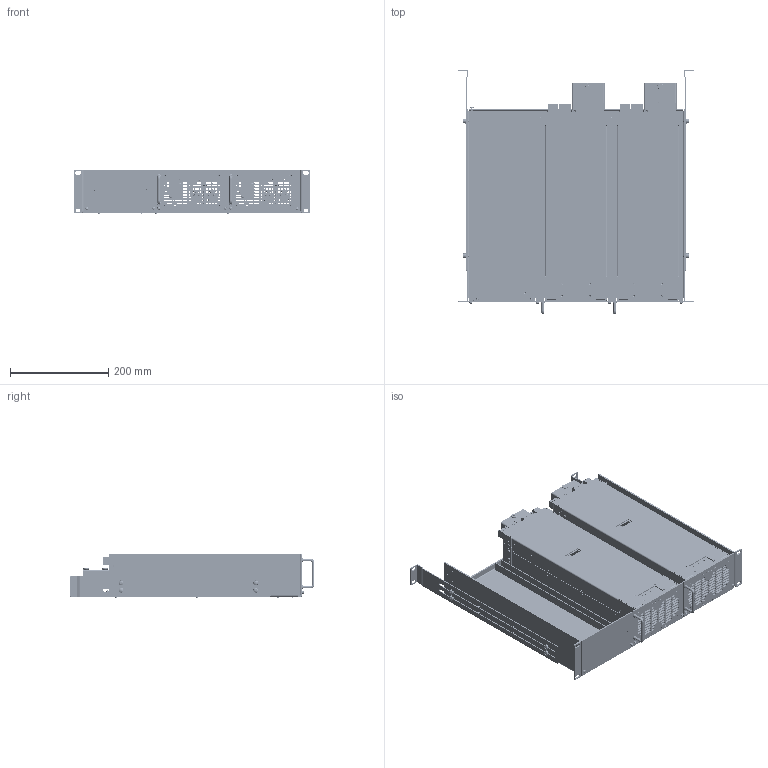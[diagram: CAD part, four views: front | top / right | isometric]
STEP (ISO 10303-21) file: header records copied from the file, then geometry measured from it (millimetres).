
FILE_DESCRIPTION(/* description */ ('19" Subrack 2U 84TE','CAx-IF Rec.Pracs.---Representation and Presentation of Product Manufacturing Information (PMI)---4.0---2014-10-13'),/* implementation_level */ '2;1');
FILE_NAME(/* name */ 'E:\CAMTEC_2020_Pack and Go\Subrack_2U\Subrack_2U.stp',/* time_stamp */ '2020-09-21T13:22:17+02:00',/* author */ ('rryba'),/* organization */ (''),/* preprocessor_version */ 'ST-DEVELOPER v18.1',/* originating_system */ 'Autodesk Inventor 2021',/* authorisation */ '');
FILE_SCHEMA (('AP242_MANAGED_MODEL_BASED_3D_ENGINEERING_MIM_LF { 1 0 10303 442 1 1 4 }'));
Products named in the file (97): Subrack_2U; 2201004001CA; 2021075003; 2051040002; 2530393; 2530073; 2201008001CA; 2051047001; 2530397; PSU; 2031049004; 2021053003; 2021054005; 2021055003; 2051037002; 2051038001; 2011059005; 2011060004; 2051033003; 2051035002; 2061083001; 2061084001; 3011127001KZ; 2530386; 2530165; Abstandrohr; Abstandrohr- Gewindebolzen; Abstandrohr- Mutter; Analog I_O; 2051054004; Analog PCB; 1277320000; 1277330000; 1277340000; Digital I_O; 2051078001; 2051055001; Digital PCB; 1597360000; 1605070000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
Assembly tree (208 placements, depth 5):
  Subrack_2U
    2201004001CA
      2021075003
      2051040002  x2
      2530396  x6
      2530393
      2530073
    2201008001CA
      2051047001  x2
      2530397  x8
    PSU  x2
      2031049004
      2021053003
      2021054005
      2021055003
      2051037002
      2051038001
      2011059005
      2011060004
      2051033003
      2051035002
      2061083001
      2061084001
      3011127001KZ
      2530386
      2530165
        Abstandrohr
        Abstandrohr- Gewindebolzen
        Abstandrohr- Mutter
      Analog I_O
        2051054004
        2051055001  x2
        2530278  x4
        Analog PCB
        1277290000
        1277320000
        1277330000
        1277340000
        ISO 7045 - M2,5 x 6 - 4.8 - H  x2
        DIN 433 - 2,7  x2
      Digital I_O
        2051078001
        2051055001  x2
        2530278  x4
        Digital PCB
        1597360000
        1605070000
        74990101212_rev1
          Insulator_3
          Insulator_2
          Shielding_2
          LED
          LED_1
        1277290000
        61400416121_rev1
          Insulator
          shielding
          Pin_2  x2
          Pin  x2
        DTS09SYC2M64ZM3
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Bounding box: 483 x 499.6 x 89.45 mm (x, y, z)
Volume: 2351470 mm3; surface area: 2376918.8 mm2
Topology: 570 solids, 571 shells, 26702 faces, 82257 edges, 67446 vertices
Faces by surface type: plane 18007, cylinder 5142, cone 2093, torus 773, bspline 640, sphere 47
Full cylindrical faces by diameter (mm): 0.242 x4, 0.281 x4, 0.314 x1, 0.6 x18, 0.9 x36, 1 x18, 1.4 x116, 1.59 x8, 1.6 x54, 1.7 x18, 1.92 x18, 1.96 x54, 2.013 x40, 2.156 x4, 2.256 x8, 2.3 x26, 2.459 x150, 2.5 x24, 2.55 x8, 2.693 x102, 2.7 x8, 2.729 x4, 2.75 x6, 2.8 x18, 2.95 x8, 3 x132, 3.2 x20, 3.242 x70, 3.3 x4, 3.4 x134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
Entity records: 334284 total; most frequent: CARTESIAN_POINT 69053, ORIENTED_EDGE 51994, DIRECTION 51763, EDGE_CURVE 25997, LINE 20023, VECTOR 20023, VERTEX_POINT 17023, AXIS2_PLACEMENT_3D 15870
